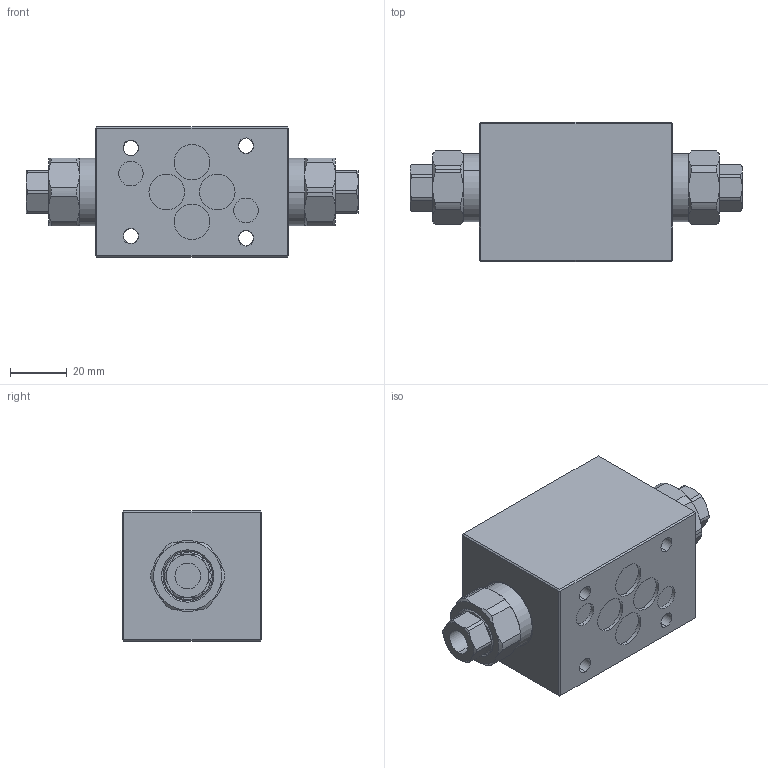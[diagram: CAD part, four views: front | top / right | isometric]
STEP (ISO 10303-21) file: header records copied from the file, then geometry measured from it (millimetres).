
FILE_DESCRIPTION (( 'STEP AP214' ), '1' );
FILE_NAME ('WFFFA06-...-se-K9.STEP', '2024-11-18T06:13:50', ( '' ), ( '' ), 'SwSTEP 2.0', 'SolidWorks 2022', '' );
FILE_SCHEMA (( 'AUTOMOTIVE_DESIGN' ));
Length unit declared in the file: millimetre
Products named in the file (1): WFFFA06-...-se-K9
Bounding box: 116.8 x 49 x 46 mm (x, y, z)
Volume: 163442.9 mm3; surface area: 27714.2 mm2
Topology: 1 solids, 5 shells, 333 faces, 789 edges, 504 vertices
Faces by surface type: plane 144, cylinder 94, cone 68, bspline 23, torus 4
Entity records: 14316 total; most frequent: CARTESIAN_POINT 2922, DIRECTION 1611, ORIENTED_EDGE 1578, EDGE_CURVE 789, AXIS2_PLACEMENT_3D 621, VERTEX_POINT 504, EDGE_LOOP 387, LINE 369
